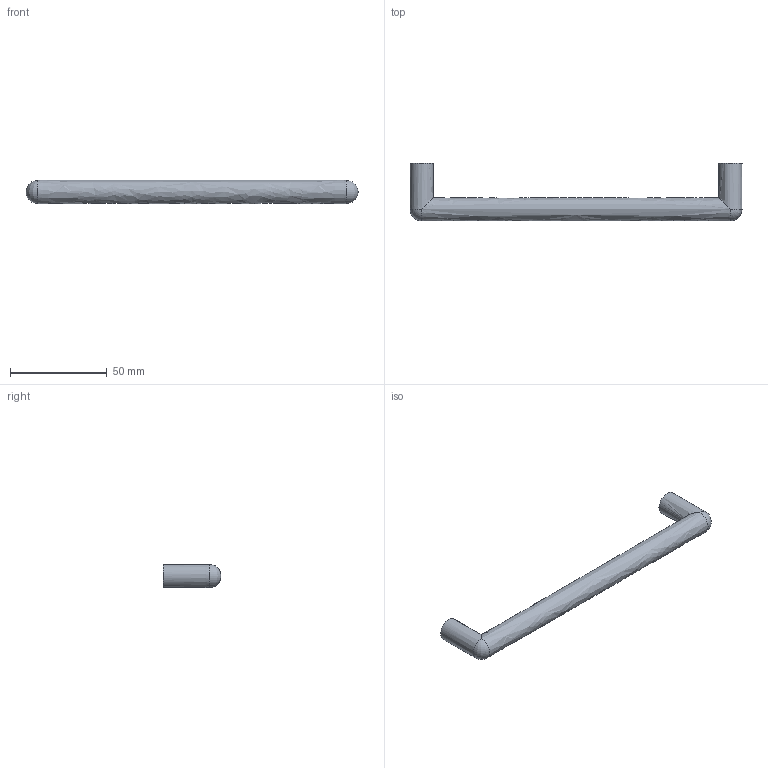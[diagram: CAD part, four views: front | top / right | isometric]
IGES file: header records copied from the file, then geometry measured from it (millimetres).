
Start section: Data from Parasolid IGES Translator 15.0.47, Copyright(c) 2006 Siemens P LM Software. All Rights Reserved.
Global section: file name:  9070975.igs; native system:  By UGS Corp.; preprocessor: XPlus GENERIC/IGES 3.0; author: Noname; organization: Noname; date: 20140122.181527; units: millimetre
Bounding box: 172 x 30 x 12 mm (x, y, z)
Surface area: 8320 mm2 (no closed solid volume)
Topology: 0 solids, 0 shells, 11 faces, 38 edges, 30 vertices
Faces by surface type: revolution 7, extrusion 4
